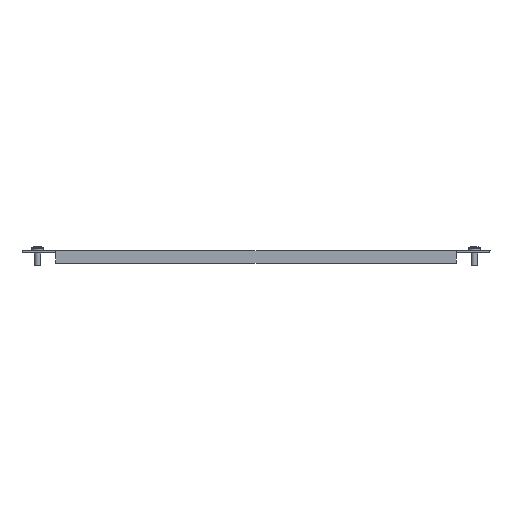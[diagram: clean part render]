
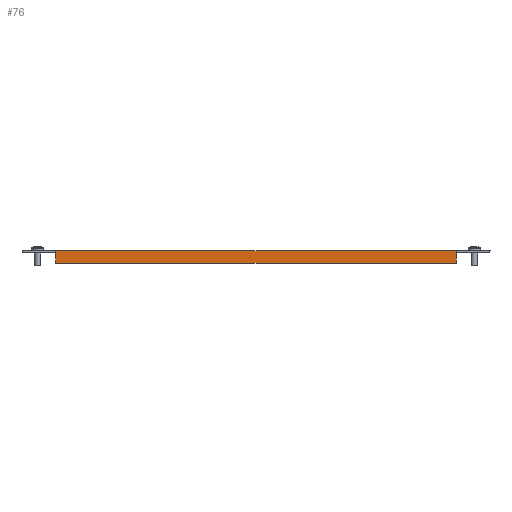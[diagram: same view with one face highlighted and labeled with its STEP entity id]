
A CAD part, front view. The second image highlights one B-rep face of the part: STEP entity #76.
In plain terms, the highlighted planar face has unit normal (0, -1, 0).
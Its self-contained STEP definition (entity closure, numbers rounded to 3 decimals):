
#5 = VECTOR ( 'NONE', #2797, 1000. ) ;
#14 = DIRECTION ( 'NONE',  ( 0., -1., 0. ) ) ;
#32 = VECTOR ( 'NONE', #789, 1000. ) ;
#76 = ADVANCED_FACE ( 'NONE', ( #2307 ), #3556, .T. ) ;
#82 = LINE ( 'NONE', #759, #2750 ) ;
#392 = ORIENTED_EDGE ( 'NONE', *, *, #2274, .T. ) ;
#401 = CARTESIAN_POINT ( 'NONE',  ( 160.5, -199., -2.4 ) ) ;
#407 = CARTESIAN_POINT ( 'NONE',  ( 160.5, -199., -2.4 ) ) ;
#420 = ORIENTED_EDGE ( 'NONE', *, *, #3669, .T. ) ;
#679 = CARTESIAN_POINT ( 'NONE',  ( -160.5, -199., -2.4 ) ) ;
#714 = EDGE_CURVE ( 'NONE', #3451, #1059, #3729, .T. ) ;
#759 = CARTESIAN_POINT ( 'NONE',  ( -160.5, -199., -10. ) ) ;
#779 = CARTESIAN_POINT ( 'NONE',  ( 0., -199., 0. ) ) ;
#789 = DIRECTION ( 'NONE',  ( 0., 0., 1. ) ) ;
#844 = LINE ( 'NONE', #2432, #1902 ) ;
#936 = CARTESIAN_POINT ( 'NONE',  ( 160.5, -199., 0. ) ) ;
#1001 = CARTESIAN_POINT ( 'NONE',  ( -160.5, -199., 0. ) ) ;
#1059 = VERTEX_POINT ( 'NONE', #1001 ) ;
#1148 = VERTEX_POINT ( 'NONE', #2315 ) ;
#1282 = DIRECTION ( 'NONE',  ( 0., 0., -1. ) ) ;
#1351 = EDGE_CURVE ( 'NONE', #1624, #1842, #844, .T. ) ;
#1467 = CARTESIAN_POINT ( 'NONE',  ( 160.5, -199., -10. ) ) ;
#1533 = CARTESIAN_POINT ( 'NONE',  ( -160.5, -199., -1.8 ) ) ;
#1558 = VECTOR ( 'NONE', #1993, 1000. ) ;
#1624 = VERTEX_POINT ( 'NONE', #401 ) ;
#1782 = ORIENTED_EDGE ( 'NONE', *, *, #2130, .F. ) ;
#1842 = VERTEX_POINT ( 'NONE', #1467 ) ;
#1870 = DIRECTION ( 'NONE',  ( 0., 0., 1. ) ) ;
#1899 = ORIENTED_EDGE ( 'NONE', *, *, #714, .F. ) ;
#1902 = VECTOR ( 'NONE', #3399, 1000. ) ;
#1993 = DIRECTION ( 'NONE',  ( 0., 0., 1. ) ) ;
#2068 = ORIENTED_EDGE ( 'NONE', *, *, #3536, .F. ) ;
#2130 = EDGE_CURVE ( 'NONE', #1148, #3451, #4134, .T. ) ;
#2274 = EDGE_CURVE ( 'NONE', #1624, #2692, #3662, .T. ) ;
#2307 = FACE_OUTER_BOUND ( 'NONE', #3480, .T. ) ;
#2315 = CARTESIAN_POINT ( 'NONE',  ( -160.5, -199., -10. ) ) ;
#2432 = CARTESIAN_POINT ( 'NONE',  ( 160.5, -199., -10. ) ) ;
#2501 = VECTOR ( 'NONE', #1870, 1000. ) ;
#2692 = VERTEX_POINT ( 'NONE', #936 ) ;
#2718 = DIRECTION ( 'NONE',  ( -1., 0., 0. ) ) ;
#2750 = VECTOR ( 'NONE', #2718, 1000. ) ;
#2797 = DIRECTION ( 'NONE',  ( -1., 0., 0. ) ) ;
#3121 = LINE ( 'NONE', #779, #5 ) ;
#3399 = DIRECTION ( 'NONE',  ( 0., 0., -1. ) ) ;
#3451 = VERTEX_POINT ( 'NONE', #679 ) ;
#3480 = EDGE_LOOP ( 'NONE', ( #4162, #392, #420, #1899, #1782, #2068 ) ) ;
#3492 = CARTESIAN_POINT ( 'NONE',  ( -160.5, -199., 0. ) ) ;
#3536 = EDGE_CURVE ( 'NONE', #1842, #1148, #82, .T. ) ;
#3556 = PLANE ( 'NONE',  #3665 ) ;
#3662 = LINE ( 'NONE', #407, #1558 ) ;
#3665 = AXIS2_PLACEMENT_3D ( 'NONE', #3910, #14, #1282 ) ;
#3669 = EDGE_CURVE ( 'NONE', #2692, #1059, #3121, .T. ) ;
#3729 = LINE ( 'NONE', #3492, #32 ) ;
#3910 = CARTESIAN_POINT ( 'NONE',  ( 0., -199., 0. ) ) ;
#4134 = LINE ( 'NONE', #1533, #2501 ) ;
#4162 = ORIENTED_EDGE ( 'NONE', *, *, #1351, .F. ) ;
